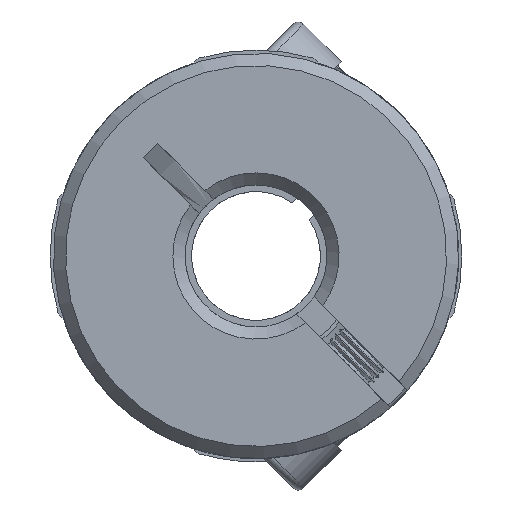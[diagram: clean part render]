
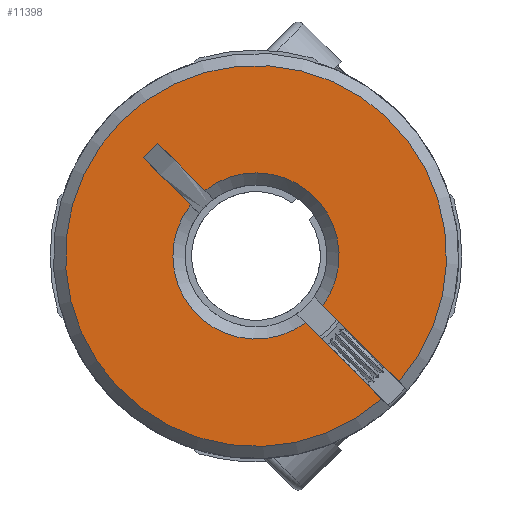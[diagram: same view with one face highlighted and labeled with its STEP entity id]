
A CAD part, front view. The second image highlights one B-rep face of the part: STEP entity #11398.
In plain terms, the highlighted planar face has unit normal (0, -1, 0).
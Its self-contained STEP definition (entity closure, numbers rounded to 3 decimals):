
#87 = LINE ( 'NONE', #3933, #10148 ) ;
#96 = DIRECTION ( 'NONE',  ( 0.707, 0., -0.707 ) ) ;
#143 = CARTESIAN_POINT ( 'NONE',  ( 2.014, -12.6, -2.863 ) ) ;
#211 = CIRCLE ( 'NONE', #7925, 4.1 ) ;
#342 = EDGE_CURVE ( 'NONE', #3056, #3845, #87, .T. ) ;
#1114 = VERTEX_POINT ( 'NONE', #6548 ) ;
#1116 = CARTESIAN_POINT ( 'NONE',  ( 2.444, -12.6, -3.292 ) ) ;
#1250 = AXIS2_PLACEMENT_3D ( 'NONE', #5442, #1341, #2384 ) ;
#1341 = DIRECTION ( 'NONE',  ( 0., 1., 0. ) ) ;
#1435 = DIRECTION ( 'NONE',  ( 0.707, 0., -0.707 ) ) ;
#1589 = CARTESIAN_POINT ( 'NONE',  ( 0., -12.6, 0. ) ) ;
#1638 = EDGE_CURVE ( 'NONE', #7575, #5600, #7075, .T. ) ;
#1698 = CARTESIAN_POINT ( 'NONE',  ( 3.292, -12.6, -2.444 ) ) ;
#2043 = VECTOR ( 'NONE', #4642, 1000. ) ;
#2253 = VERTEX_POINT ( 'NONE', #1116 ) ;
#2292 = LINE ( 'NONE', #10718, #12717 ) ;
#2384 = DIRECTION ( 'NONE',  ( 0.707, 0., -0.707 ) ) ;
#2389 = DIRECTION ( 'NONE',  ( 0., 1., 0. ) ) ;
#2396 = VERTEX_POINT ( 'NONE', #11292 ) ;
#2419 = EDGE_CURVE ( 'NONE', #3845, #7350, #8315, .T. ) ;
#2808 = EDGE_LOOP ( 'NONE', ( #11432, #3591, #7748, #12867, #6541, #11537, #11908, #11117 ) ) ;
#2816 = VECTOR ( 'NONE', #4416, 1000. ) ;
#2949 = CARTESIAN_POINT ( 'NONE',  ( 0., -12.6, 0. ) ) ;
#2976 = EDGE_CURVE ( 'NONE', #2396, #1114, #8012, .T. ) ;
#3056 = VERTEX_POINT ( 'NONE', #3740 ) ;
#3591 = ORIENTED_EDGE ( 'NONE', *, *, #1638, .T. ) ;
#3740 = CARTESIAN_POINT ( 'NONE',  ( -4.842, -12.6, 5.549 ) ) ;
#3845 = VERTEX_POINT ( 'NONE', #9837 ) ;
#3933 = CARTESIAN_POINT ( 'NONE',  ( -4.842, -12.6, 5.549 ) ) ;
#3945 = DIRECTION ( 'NONE',  ( 0., 1., 0. ) ) ;
#4416 = DIRECTION ( 'NONE',  ( 0.707, 0., -0.707 ) ) ;
#4519 = DIRECTION ( 'NONE',  ( 0.707, 0., -0.707 ) ) ;
#4642 = DIRECTION ( 'NONE',  ( 0.707, 0., -0.707 ) ) ;
#4683 = LINE ( 'NONE', #5260, #2816 ) ;
#4870 = CARTESIAN_POINT ( 'NONE',  ( -3.231, -12.6, 2.524 ) ) ;
#4873 = DIRECTION ( 'NONE',  ( 0.707, 0., -0.707 ) ) ;
#5260 = CARTESIAN_POINT ( 'NONE',  ( 5.657, -12.6, -4.95 ) ) ;
#5312 = CARTESIAN_POINT ( 'NONE',  ( 4.95, -12.6, -5.657 ) ) ;
#5442 = CARTESIAN_POINT ( 'NONE',  ( 342.528, -12.6, 364.579 ) ) ;
#5600 = VERTEX_POINT ( 'NONE', #1698 ) ;
#6342 = AXIS2_PLACEMENT_3D ( 'NONE', #1589, #8618, #4519 ) ;
#6347 = PLANE ( 'NONE',  #1250 ) ;
#6541 = ORIENTED_EDGE ( 'NONE', *, *, #9144, .F. ) ;
#6548 = CARTESIAN_POINT ( 'NONE',  ( 6.209, -12.6, -7.058 ) ) ;
#7023 = EDGE_CURVE ( 'NONE', #3056, #7575, #4683, .T. ) ;
#7051 = VECTOR ( 'NONE', #96, 1000. ) ;
#7075 = CIRCLE ( 'NONE', #8043, 4.1 ) ;
#7350 = VERTEX_POINT ( 'NONE', #4870 ) ;
#7575 = VERTEX_POINT ( 'NONE', #11531 ) ;
#7748 = ORIENTED_EDGE ( 'NONE', *, *, #8300, .F. ) ;
#7925 = AXIS2_PLACEMENT_3D ( 'NONE', #12566, #2389, #1435 ) ;
#8012 = CIRCLE ( 'NONE', #6342, 9.4 ) ;
#8017 = LINE ( 'NONE', #143, #7051 ) ;
#8043 = AXIS2_PLACEMENT_3D ( 'NONE', #2949, #3945, #4873 ) ;
#8300 = EDGE_CURVE ( 'NONE', #2396, #5600, #2292, .T. ) ;
#8315 = LINE ( 'NONE', #5312, #2043 ) ;
#8618 = DIRECTION ( 'NONE',  ( 0., -1., 0. ) ) ;
#9144 = EDGE_CURVE ( 'NONE', #2253, #1114, #8017, .T. ) ;
#9837 = CARTESIAN_POINT ( 'NONE',  ( -5.549, -12.6, 4.842 ) ) ;
#10148 = VECTOR ( 'NONE', #11011, 1000. ) ;
#10718 = CARTESIAN_POINT ( 'NONE',  ( 2.863, -12.6, -2.014 ) ) ;
#11011 = DIRECTION ( 'NONE',  ( -0.707, 0., -0.707 ) ) ;
#11117 = ORIENTED_EDGE ( 'NONE', *, *, #342, .F. ) ;
#11292 = CARTESIAN_POINT ( 'NONE',  ( 7.058, -12.6, -6.209 ) ) ;
#11398 = ADVANCED_FACE ( 'NONE', ( #11617 ), #6347, .F. ) ;
#11432 = ORIENTED_EDGE ( 'NONE', *, *, #7023, .T. ) ;
#11531 = CARTESIAN_POINT ( 'NONE',  ( -2.524, -12.6, 3.231 ) ) ;
#11537 = ORIENTED_EDGE ( 'NONE', *, *, #12315, .T. ) ;
#11617 = FACE_OUTER_BOUND ( 'NONE', #2808, .T. ) ;
#11908 = ORIENTED_EDGE ( 'NONE', *, *, #2419, .F. ) ;
#12315 = EDGE_CURVE ( 'NONE', #2253, #7350, #211, .T. ) ;
#12566 = CARTESIAN_POINT ( 'NONE',  ( 0., -12.6, 0. ) ) ;
#12717 = VECTOR ( 'NONE', #12838, 1000. ) ;
#12838 = DIRECTION ( 'NONE',  ( -0.707, 0., 0.707 ) ) ;
#12867 = ORIENTED_EDGE ( 'NONE', *, *, #2976, .T. ) ;
